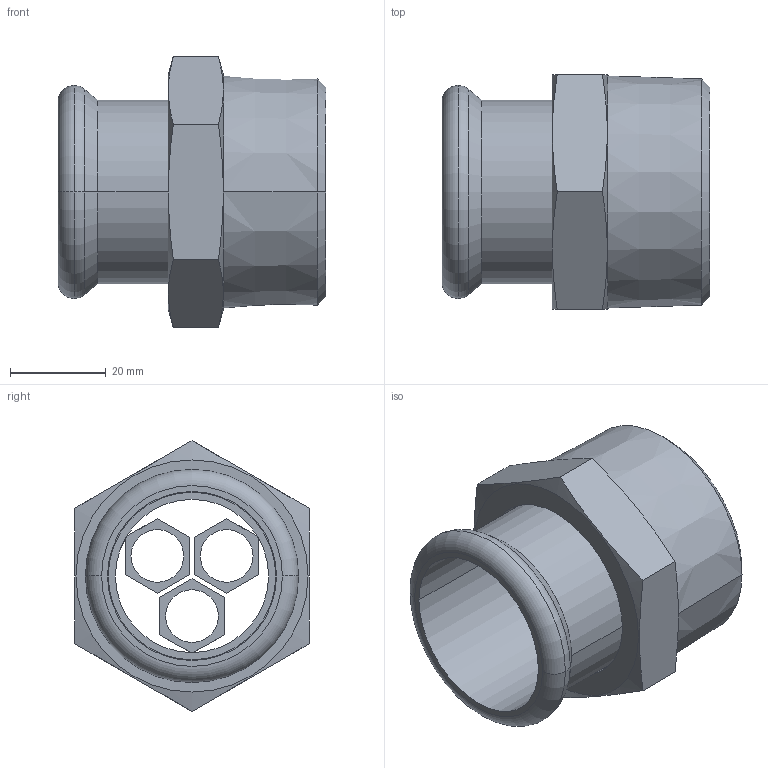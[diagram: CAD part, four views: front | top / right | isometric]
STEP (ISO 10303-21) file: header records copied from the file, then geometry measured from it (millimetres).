
FILE_DESCRIPTION(('OneSpaceDesigner STEP Export'),'2;1');
FILE_NAME('R2705 35xR1 1-2.stp','2010-06-09T10:58:23',(''),(''),'OneSpace Designer STEP processor for AP214 (Solid Model)','OneSpace Modeling 15.00A 14-Mar-2007 (C) CoCreate Software GmbH','');
FILE_SCHEMA(('AUTOMOTIVE_DESIGN { 1 0 10303 214 1 1 1 1 }'));
Length unit declared in the file: millimetre
Products named in the file (2): R2705_35xR1_1-2
Assembly tree (1 placements, depth 2):
  R2705_35xR1_1-2
    R2705_35xR1_1-2
Bounding box: 56 x 49 x 56.58 mm (x, y, z)
Volume: 30893.7 mm3; surface area: 19371.7 mm2
Topology: 1 solids, 1 shells, 82 faces, 199 edges, 128 vertices
Faces by surface type: plane 41, cylinder 23, cone 12, torus 6
Entity records: 2971 total; most frequent: CARTESIAN_POINT 1182, ORIENTED_EDGE 398, DIRECTION 301, EDGE_CURVE 199, VERTEX_POINT 128, VECTOR 107, LINE 107, EDGE_LOOP 99
